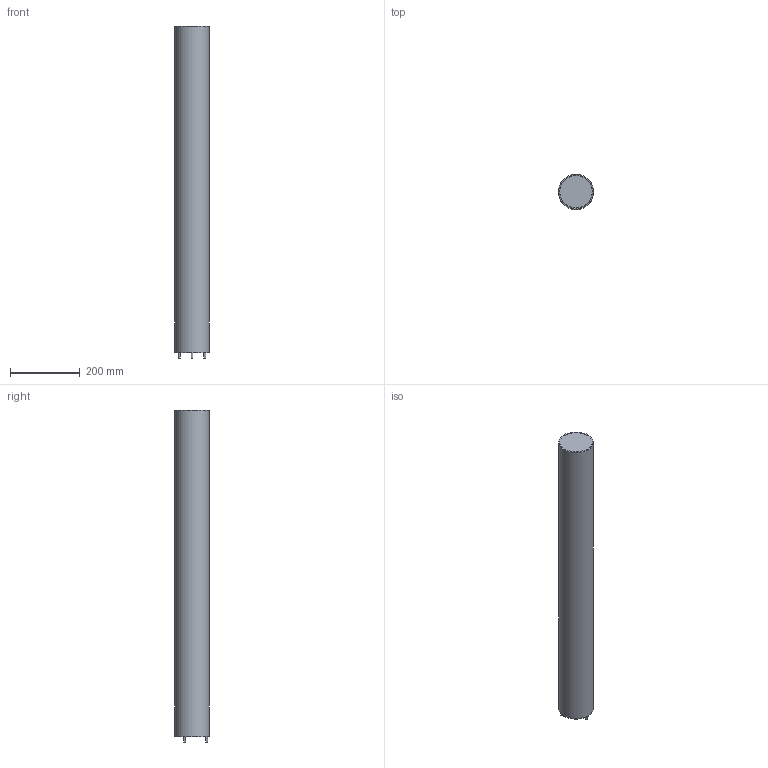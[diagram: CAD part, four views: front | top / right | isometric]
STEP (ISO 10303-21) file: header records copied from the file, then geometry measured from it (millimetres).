
FILE_DESCRIPTION(/* description */ (''),/* implementation_level */ '2;1');
FILE_NAME(/* name */ 'Light Stick Sahara 95.step',/* time_stamp */ '2022-12-22T11:29:20+01:00',/* author */ (''),/* organization */ (''),/* preprocessor_version */ 'ST-DEVELOPER v19.2',/* originating_system */ 'Autodesk Translation Framework v11.17.0.187',/* authorisation */ '');
FILE_SCHEMA (('AUTOMOTIVE_DESIGN { 1 0 10303 214 3 1 1 }'));
Length unit declared in the file: millimetre
Products named in the file (4): Light Stick Sahara 95; Fuß Light Star/Stick Modell; Rohr Light Stick Sahara 95 mit Deckel; Deckel Light Stick
Assembly tree (3 placements, depth 3):
  Light Stick Sahara 95
    Fuß Light Star/Stick Modell
    Rohr Light Stick Sahara 95 mit Deckel
      Deckel Light Stick
Bounding box: 100 x 100 x 951 mm (x, y, z)
Volume: 1050015.8 mm3; surface area: 610553.5 mm2
Topology: 3 solids, 3 shells, 21 faces, 29 edges, 19 vertices
Faces by surface type: plane 11, cylinder 9, cone 1
Full cylindrical faces by diameter (mm): 5 x3, 93 x1, 94 x2, 100 x3
Entity records: 585 total; most frequent: DIRECTION 104, CARTESIAN_POINT 76, ORIENTED_EDGE 58, AXIS2_PLACEMENT_3D 47, EDGE_CURVE 29, EDGE_LOOP 28, FACE_OUTER_BOUND 21, ADVANCED_FACE 21
